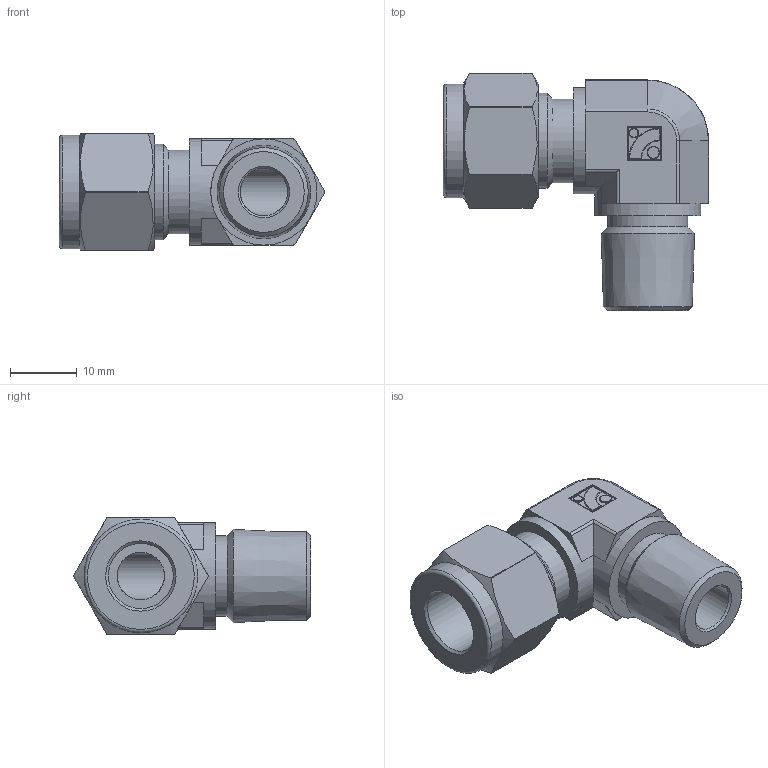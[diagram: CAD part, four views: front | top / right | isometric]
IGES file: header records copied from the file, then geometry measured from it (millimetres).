
Global section: file name: No Iges File Name specified; native system: Autodesk Inventor 2012; preprocessor: AutoDesk Inventor Iges Exporter R2012; author: 硅己绕,,1; organization: 1; date: 20150703.114052; units: millimetre
Bounding box: 39.72 x 35.48 x 17.5 mm (x, y, z)
Volume: 8160.4 mm3; surface area: 4782.1 mm2
Topology: 1 solids, 1 shells, 117 faces, 265 edges, 155 vertices
Faces by surface type: plane 42, cylinder 35, revolution 20, cone 8, torus 8, sphere 4
Full cylindrical faces by diameter (mm): 1.35 x1, 1.8 x1, 12 x1, 12.5 x1, 14.28 x1, 15.9 x2, 17 x1
